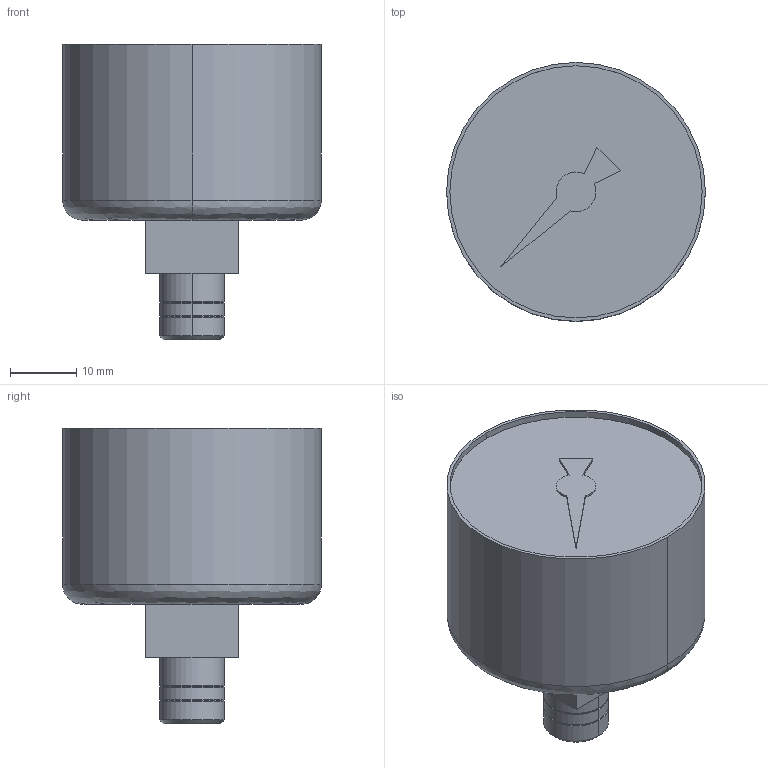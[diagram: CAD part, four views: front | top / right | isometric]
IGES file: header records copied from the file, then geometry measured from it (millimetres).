
Start section:  PTC IGES file: R412003853\r412003853.iges
Global section: file name: R412003853\r412003853.iges; native system: Creo Parametric by PTC Inc.; preprocessor: 2020044; author: THD3HC; organization: Unknown; date: 20231114.161554; units: millimetre
Bounding box: 39 x 39 x 44.5 mm (x, y, z)
Surface area: 6473.9 mm2 (no closed solid volume)
Topology: 0 solids, 0 shells, 42 faces, 178 edges, 178 vertices
Faces by surface type: revolution 26, bspline 16
